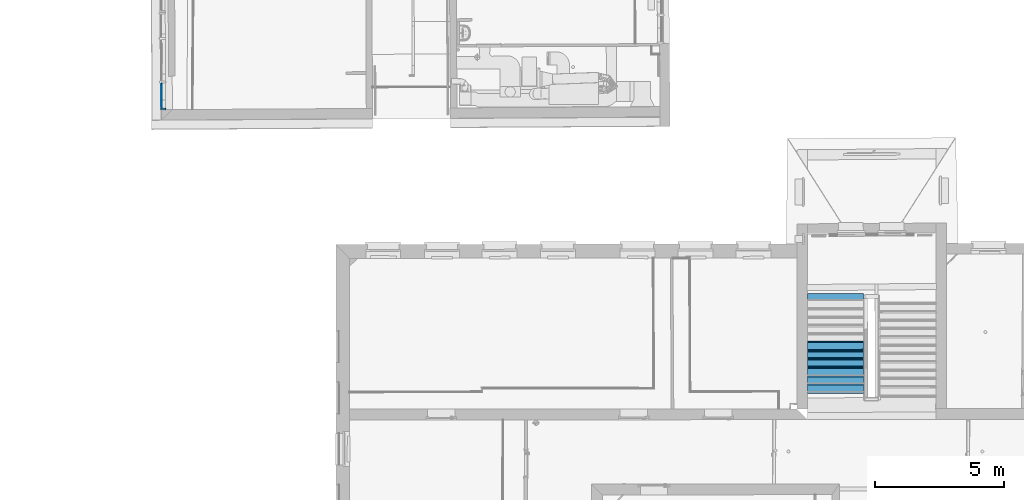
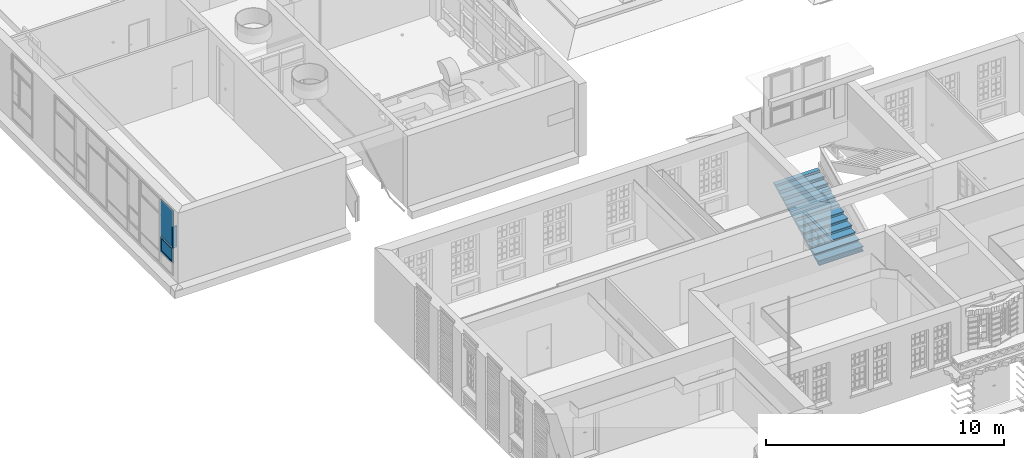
# One storey, part 90 of 158: 15 building element parts, 2 elements without a shape of their own.
"""IFC2X3 building model written with IfcOpenShell, lengths in metres."""

from ifc_helpers import new_model, entity, si_unit, converted_unit, derived_unit, money_unit, direction, frame, origin_with_axes, place, context, subcontext, project, spatial, faceted_brep, material, type_object, element, aggregate, save


model = new_model("IFC2X3")

# Units and contexts
model_context = context("Model", 3, precision=1e-05, world=origin_with_axes(), true_north=direction((0.0, 1.0)))
body_context = subcontext(model_context, "Body", "Model", "MODEL_VIEW")
ifc_project = project(units=[si_unit("LENGTHUNIT", "METRE"), si_unit("AREAUNIT", "SQUARE_METRE"), si_unit("VOLUMEUNIT", "CUBIC_METRE"), converted_unit("PLANEANGLEUNIT", "DEGREE", entity("IfcPlaneAngleMeasure", 0.0174532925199), si_unit("PLANEANGLEUNIT", "RADIAN"), dimensions=[0, 0, 0, 0, 0, 0, 0]), money_unit("EUR"), converted_unit("TIMEUNIT", "Year", entity("IfcTimeMeasure", 31556926.0), si_unit("TIMEUNIT", "SECOND"), dimensions=[0, 0, 1, 0, 0, 0, 0]), si_unit("MASSUNIT", "GRAM", prefix="KILO"), si_unit("THERMODYNAMICTEMPERATUREUNIT", "DEGREE_CELSIUS"), si_unit("LUMINOUSINTENSITYUNIT", "LUMEN"), si_unit("ENERGYUNIT", "JOULE", prefix="MEGA"), derived_unit("THERMALCONDUCTANCEUNIT", [(si_unit("POWERUNIT", "WATT"), 1), (si_unit("LENGTHUNIT", "METRE"), -1), (si_unit("THERMODYNAMICTEMPERATUREUNIT", "KELVIN"), -1)]), derived_unit("SPECIFICHEATCAPACITYUNIT", [(si_unit("ENERGYUNIT", "JOULE"), 1), (si_unit("MASSUNIT", "GRAM", prefix="KILO"), -1), (si_unit("THERMODYNAMICTEMPERATUREUNIT", "KELVIN"), -1)]), derived_unit("MASSDENSITYUNIT", [(si_unit("MASSUNIT", "GRAM", prefix="KILO"), 1), (si_unit("VOLUMEUNIT", "CUBIC_METRE"), -1)])], contexts=[model_context])

# Site, building, storey
site_placement = place(None, origin_with_axes())
site = spatial("IfcSite", under=ifc_project, at=site_placement, Name="Gelände", CompositionType="ELEMENT")
building_placement = place(site_placement, origin_with_axes())
building = spatial("IfcBuilding", under=site, at=building_placement, Name="Gebäude", CompositionType="ELEMENT")
storey_placement = place(building_placement, origin_with_axes())
storey = spatial("IfcBuildingStorey", under=building, at=storey_placement, Name="ERDGESCHOSS", CompositionType="ELEMENT", Elevation=0.0)

# Proxy, building element parts
building_element_proxy_type = type_object("IfcBuildingElementProxyType", Name="Fassadentyp", PredefinedType="NOTDEFINED")
proxy_placement = place(storey_placement, frame((-34.8120286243, 34.4012060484, 1.3404389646), z_axis=(0.0, 0.0, 1.0), x_axis=(1.0, 0.0, 0.0)))
proxy = element("IfcBuildingElementProxy", 1, at=proxy_placement, inside=storey, type_object=building_element_proxy_type, Name="Fassade-002")
ifc_material_1 = material(Name="45_Glas, Normalglas")
building_element_part_1_placement = place(proxy_placement, origin_with_axes())
building_element_part_1 = element("IfcBuildingElementPart", 2, at=building_element_part_1_placement, material=ifc_material_1, Name="45_Glas, Normalglas", context=body_context, shape_type="Brep", body=[
    faceted_brep([(0.0383259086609, -3.12465925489, 3.31499999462), (0.0363534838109, -2.78834462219, 3.31499999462), (-0.00364582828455, -2.78857921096, 3.31499999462), (-0.00167340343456, -3.12489384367, 3.31499999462), (0.0383259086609, -3.12465925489, 2.52000009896), (0.0383259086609, -3.12465925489, 1.43000009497), (0.0363534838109, -2.78834462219, 1.43000009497), (0.0323203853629, -2.10066822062, 1.43000009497), (0.0323203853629, -2.10066822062, 2.52000009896), (0.0323203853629, -2.10066822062, 3.31499999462), (-0.00767892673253, -2.1009028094, 3.31499999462), (-0.00767892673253, -2.1009028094, 2.52000009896), (-0.00767892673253, -2.1009028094, 1.43000009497), (-0.00364582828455, -2.78857921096, 1.43000009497), (-0.00167340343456, -3.12489384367, 1.43000009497), (-0.00167340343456, -3.12489384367, 2.52000009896)], [[[0, 1, 2, 3]], [[0, 4, 5, 6, 7, 8, 9, 1]], [[1, 9, 10, 2]], [[3, 2, 10, 11, 12, 13, 14, 15]], [[4, 0, 3, 15]], [[5, 4, 15, 14]], [[6, 5, 14, 13]], [[7, 6, 13, 12]], [[8, 7, 12, 11]], [[9, 8, 11, 10]]]),
])
ifc_material_2 = material(Name="53_Metall, Aluminium")
building_element_part_2_placement = place(proxy_placement, origin_with_axes())
building_element_part_2 = element("IfcBuildingElementPart", 3, at=building_element_part_2_placement, material=ifc_material_2, Name="53_Metall, Aluminium", context=body_context, shape_type="Brep", body=[
    faceted_brep([(-0.0175907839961, -2.11596119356, 0.645000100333), (-0.0117612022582, -3.10995274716, 0.645000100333), (-0.0167611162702, -3.10998207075, 0.645000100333), (-0.022590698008, -2.11599051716, 0.645000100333), (-0.017326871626, -2.16096041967, 0.690000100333), (-0.0120251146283, -3.06495352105, 0.690000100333), (-0.0170250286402, -3.06498284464, 0.690000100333), (-0.0223267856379, -2.16098974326, 0.690000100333)], [[[0, 1, 2, 3]], [[0, 4, 5, 1]], [[1, 5, 6, 2]], [[3, 2, 6, 7]], [[4, 0, 3, 7]], [[5, 4, 7, 6]]]),
    faceted_brep([(-0.0117612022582, -3.10995274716, 0.645000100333), (-0.0117612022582, -3.10995274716, 1.39500009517), (-0.0167611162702, -3.10998207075, 1.39500009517), (-0.0167611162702, -3.10998207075, 0.645000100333), (-0.0120251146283, -3.06495352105, 0.690000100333), (-0.0120251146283, -3.06495352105, 1.35000009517), (-0.0170250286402, -3.06498284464, 1.35000009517), (-0.0170250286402, -3.06498284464, 0.690000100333)], [[[0, 1, 2, 3]], [[0, 4, 5, 1]], [[1, 5, 6, 2]], [[3, 2, 6, 7]], [[4, 0, 3, 7]], [[5, 4, 7, 6]]]),
    faceted_brep([(-0.0175907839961, -2.11596119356, 1.39500009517), (-0.017326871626, -2.16096041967, 1.35000009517), (-0.0223267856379, -2.16098974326, 1.35000009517), (-0.022590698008, -2.11599051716, 1.39500009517), (-0.0117612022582, -3.10995274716, 1.39500009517), (-0.0120251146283, -3.06495352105, 1.35000009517), (-0.0170250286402, -3.06498284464, 1.35000009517), (-0.0167611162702, -3.10998207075, 1.39500009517)], [[[0, 1, 2, 3]], [[0, 4, 5, 1]], [[1, 5, 6, 2]], [[3, 2, 6, 7]], [[4, 0, 3, 7]], [[5, 4, 7, 6]]]),
    faceted_brep([(-0.0175907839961, -2.11596119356, 0.645000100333), (-0.017326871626, -2.16096041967, 0.690000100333), (-0.0223267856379, -2.16098974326, 0.690000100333), (-0.022590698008, -2.11599051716, 0.645000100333), (-0.0175907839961, -2.11596119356, 1.39500009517), (-0.017326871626, -2.16096041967, 1.35000009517), (-0.0223267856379, -2.16098974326, 1.35000009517), (-0.022590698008, -2.11599051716, 1.39500009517)], [[[0, 1, 2, 3]], [[0, 4, 5, 1]], [[1, 5, 6, 2]], [[3, 2, 6, 7]], [[4, 0, 3, 7]], [[5, 4, 7, 6]]]),
    faceted_brep([(0.0324083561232, -2.11566795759, 0.645000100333), (0.0382379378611, -3.10965951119, 0.645000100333), (-0.0117612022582, -3.10995274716, 0.645000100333), (-0.0175907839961, -2.11596119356, 0.645000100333), (0.0325256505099, -2.13566761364, 0.665000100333), (0.0381206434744, -3.08965985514, 0.665000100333), (-0.0118784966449, -3.08995309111, 0.665000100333), (-0.0174734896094, -2.13596084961, 0.665000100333)], [[[0, 1, 2, 3]], [[0, 4, 5, 1]], [[1, 5, 6, 2]], [[3, 2, 6, 7]], [[4, 0, 3, 7]], [[5, 4, 7, 6]]]),
    faceted_brep([(0.0382379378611, -3.10965951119, 0.645000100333), (0.0382379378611, -3.10965951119, 1.39500009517), (-0.0117612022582, -3.10995274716, 1.39500009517), (-0.0117612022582, -3.10995274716, 0.645000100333), (0.0381206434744, -3.08965985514, 0.665000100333), (0.0381206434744, -3.08965985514, 1.37500009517), (-0.0118784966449, -3.08995309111, 1.37500009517), (-0.0118784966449, -3.08995309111, 0.665000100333)], [[[0, 1, 2, 3]], [[0, 4, 5, 1]], [[1, 5, 6, 2]], [[3, 2, 6, 7]], [[4, 0, 3, 7]], [[5, 4, 7, 6]]]),
    faceted_brep([(0.0324083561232, -2.11566795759, 1.39500009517), (0.0325256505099, -2.13566761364, 1.37500009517), (-0.0174734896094, -2.13596084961, 1.37500009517), (-0.0175907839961, -2.11596119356, 1.39500009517), (0.0382379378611, -3.10965951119, 1.39500009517), (0.0381206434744, -3.08965985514, 1.37500009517), (-0.0118784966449, -3.08995309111, 1.37500009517), (-0.0117612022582, -3.10995274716, 1.39500009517)], [[[0, 1, 2, 3]], [[0, 4, 5, 1]], [[1, 5, 6, 2]], [[3, 2, 6, 7]], [[4, 0, 3, 7]], [[5, 4, 7, 6]]]),
    faceted_brep([(0.0324083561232, -2.11566795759, 0.645000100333), (0.0325256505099, -2.13566761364, 0.665000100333), (-0.0174734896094, -2.13596084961, 0.665000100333), (-0.0175907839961, -2.11596119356, 0.645000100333), (0.0324083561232, -2.11566795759, 1.39500009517), (0.0325256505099, -2.13566761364, 1.37500009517), (-0.0174734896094, -2.13596084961, 1.37500009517), (-0.0175907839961, -2.11596119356, 1.39500009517)], [[[0, 1, 2, 3]], [[0, 4, 5, 1]], [[1, 5, 6, 2]], [[3, 2, 6, 7]], [[4, 0, 3, 7]], [[5, 4, 7, 6]]]),
    faceted_brep([(0.0323203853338, -2.10066821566, 0.630000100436), (0.0383259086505, -3.12465925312, 0.630000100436), (-0.00167340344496, -3.12489384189, 0.630000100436), (-0.00767892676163, -2.10090280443, 0.630000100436), (0.0324083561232, -2.11566795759, 0.645000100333), (0.0382379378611, -3.10965951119, 0.645000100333), (-0.00176137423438, -3.10989409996, 0.645000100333), (-0.00759095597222, -2.11590254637, 0.645000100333)], [[[0, 1, 2, 3]], [[0, 4, 5, 1]], [[1, 5, 6, 2]], [[3, 2, 6, 7]], [[4, 0, 3, 7]], [[5, 4, 7, 6]]]),
    faceted_brep([(0.0383259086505, -3.12465925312, 0.630000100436), (0.0383259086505, -3.12465925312, 1.41000009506), (-0.00167340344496, -3.12489384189, 1.41000009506), (-0.00167340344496, -3.12489384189, 0.630000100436), (0.0382379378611, -3.10965951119, 0.645000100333), (0.0382379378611, -3.10965951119, 1.39500009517), (-0.00176137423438, -3.10989409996, 1.39500009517), (-0.00176137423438, -3.10989409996, 0.645000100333)], [[[0, 1, 2, 3]], [[0, 4, 5, 1]], [[1, 5, 6, 2]], [[3, 2, 6, 7]], [[4, 0, 3, 7]], [[5, 4, 7, 6]]]),
    faceted_brep([(0.0383259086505, -3.12465925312, 1.41000009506), (0.0323203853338, -2.10066821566, 1.41000009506), (-0.00767892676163, -2.10090280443, 1.41000009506), (-0.00167340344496, -3.12489384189, 1.41000009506), (0.0382379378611, -3.10965951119, 1.39500009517), (0.0324083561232, -2.11566795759, 1.39500009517), (-0.00759095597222, -2.11590254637, 1.39500009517), (-0.00176137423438, -3.10989409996, 1.39500009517)], [[[0, 1, 2, 3]], [[0, 4, 5, 1]], [[1, 5, 6, 2]], [[3, 2, 6, 7]], [[4, 0, 3, 7]], [[5, 4, 7, 6]]]),
    faceted_brep([(0.0323203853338, -2.10066821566, 1.41000009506), (0.0323203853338, -2.10066821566, 0.630000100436), (-0.00767892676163, -2.10090280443, 0.630000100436), (-0.00767892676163, -2.10090280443, 1.41000009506), (0.0324083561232, -2.11566795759, 1.39500009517), (0.0324083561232, -2.11566795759, 0.645000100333), (-0.00759095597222, -2.11590254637, 0.645000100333), (-0.00759095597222, -2.11590254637, 1.39500009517)], [[[0, 1, 2, 3]], [[0, 4, 5, 1]], [[1, 5, 6, 2]], [[3, 2, 6, 7]], [[4, 0, 3, 7]], [[5, 4, 7, 6]]]),
    faceted_brep([(-0.0172095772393, -2.18096007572, 0.710000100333), (0.0377894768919, -2.18063751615, 0.710000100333), (0.0377894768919, -2.18063751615, 1.33000009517), (-0.0172095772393, -2.18096007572, 1.33000009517), (-0.0174734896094, -2.13596084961, 0.665000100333), (0.0375255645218, -2.13563829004, 0.665000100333), (0.0375255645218, -2.13563829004, 1.37500009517), (-0.0174734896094, -2.13596084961, 1.37500009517)], [[[0, 1, 2, 3]], [[4, 5, 1, 0]], [[1, 5, 6, 2]], [[3, 2, 6, 7]], [[0, 3, 7, 4]], [[7, 6, 5, 4]]]),
    faceted_brep([(-0.0118784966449, -3.08995309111, 0.665000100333), (0.0431205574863, -3.08963053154, 0.665000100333), (0.0431205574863, -3.08963053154, 1.37500009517), (-0.0118784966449, -3.08995309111, 1.37500009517), (-0.012142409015, -3.044953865, 0.710000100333), (0.0428566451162, -3.04463130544, 0.710000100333), (0.0428566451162, -3.04463130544, 1.33000009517), (-0.012142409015, -3.044953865, 1.33000009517)], [[[0, 1, 2, 3]], [[4, 5, 1, 0]], [[1, 5, 6, 2]], [[3, 2, 6, 7]], [[0, 3, 7, 4]], [[7, 6, 5, 4]]]),
    faceted_brep([(-0.0118784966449, -3.08995309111, 0.665000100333), (0.0431205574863, -3.08963053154, 0.665000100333), (0.0428566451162, -3.04463130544, 0.710000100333), (-0.012142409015, -3.044953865, 0.710000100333), (-0.0174734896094, -2.13596084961, 0.665000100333), (0.0375255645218, -2.13563829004, 0.665000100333), (0.0377894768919, -2.18063751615, 0.710000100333), (-0.0172095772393, -2.18096007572, 0.710000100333)], [[[0, 1, 2, 3]], [[4, 5, 1, 0]], [[1, 5, 6, 2]], [[3, 2, 6, 7]], [[0, 3, 7, 4]], [[7, 6, 5, 4]]]),
    faceted_brep([(-0.0174734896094, -2.13596084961, 1.37500009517), (0.0375255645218, -2.13563829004, 1.37500009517), (0.0377894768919, -2.18063751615, 1.33000009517), (-0.0172095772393, -2.18096007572, 1.33000009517), (-0.0118784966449, -3.08995309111, 1.37500009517), (0.0431205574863, -3.08963053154, 1.37500009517), (0.0428566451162, -3.04463130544, 1.33000009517), (-0.012142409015, -3.044953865, 1.33000009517)], [[[0, 1, 2, 3]], [[4, 5, 1, 0]], [[1, 5, 6, 2]], [[3, 2, 6, 7]], [[0, 3, 7, 4]], [[7, 6, 5, 4]]]),
])
building_element_part_3_placement = place(proxy_placement, origin_with_axes())
building_element_part_3 = element("IfcBuildingElementPart", 4, at=building_element_part_3_placement, material=ifc_material_1, Name="45_Glas, Normalglas", context=body_context, shape_type="Brep", body=[
    faceted_brep([(-0.00720974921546, -2.18090142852, 0.710000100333), (0.00878997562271, -2.18080759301, 0.710000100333), (0.013857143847, -3.0448013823, 0.710000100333), (-0.00214258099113, -3.04489521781, 0.710000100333), (-0.00720974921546, -2.18090142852, 1.33000009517), (0.00878997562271, -2.18080759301, 1.33000009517), (0.013857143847, -3.0448013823, 1.33000009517), (-0.00214258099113, -3.04489521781, 1.33000009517)], [[[0, 1, 2, 3]], [[4, 5, 1, 0]], [[1, 5, 6, 2]], [[3, 2, 6, 7]], [[0, 3, 7, 4]], [[7, 6, 5, 4]]]),
])
building_element_part_4_placement = place(proxy_placement, origin_with_axes())
building_element_part_4 = element("IfcBuildingElementPart", 5, at=building_element_part_4_placement, material=ifc_material_2, Name="53_Metall, Aluminium", context=body_context, shape_type="Brep", body=[
    faceted_brep([(0.0283260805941, -3.12471789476, 2.5200000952), (0.00832642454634, -3.12483518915, 2.5200000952), (0.00823845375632, -3.10983544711, 2.5200000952), (-0.0317608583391, -3.11007003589, 2.5200000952), (-0.0314676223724, -3.16006917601, 2.5200000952), (0.168528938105, -3.15889623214, 2.5200000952), (0.168235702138, -3.10889709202, 2.5200000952), (0.028238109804, -3.10971815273, 2.5200000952), (0.0283260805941, -3.12471789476, 1.4200000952), (0.00832642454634, -3.12483518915, 1.4200000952), (0.00823845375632, -3.10983544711, 1.4200000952), (-0.0317608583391, -3.11007003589, 1.4200000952), (-0.0314676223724, -3.16006917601, 1.4200000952), (0.168528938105, -3.15889623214, 1.4200000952), (0.168235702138, -3.10889709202, 1.4200000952), (0.028238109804, -3.10971815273, 1.4200000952)], [[[0, 1, 2, 3, 4, 5, 6, 7]], [[1, 0, 8, 9]], [[10, 2, 1, 9]], [[2, 10, 11, 3]], [[12, 4, 3, 11]], [[13, 5, 4, 12]], [[14, 6, 5, 13]], [[15, 7, 6, 14]], [[0, 7, 15, 8]], [[8, 15, 14, 13, 12, 11, 10, 9]]]),
])
aggregate(proxy, [building_element_part_1, building_element_part_2, building_element_part_3, building_element_part_4])

# Stair, building element parts
stair_placement = place(storey_placement, frame((-9.84157552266, 20.2697661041, -0.136081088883), z_axis=(0.0, 0.0, 1.0), x_axis=(0.999999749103, -0.000708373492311, 0.0)))
stair = element("IfcStair", 6, at=stair_placement, inside=storey, Name="Treppe-003", ShapeType="NOTDEFINED")
ifc_material_3 = material(Name="05_ALLGEMEIN - TRAGENDE BAUTEILE")
building_element_part_5_placement = place(stair_placement, origin_with_axes())
building_element_part_5 = element("IfcBuildingElementPart", 7, at=building_element_part_5_placement, material=ifc_material_3, Name="05_ALLGEMEIN - TRAGENDE BAUTEILE", context=body_context, shape_type="Brep", body=[
    faceted_brep([(2.15704420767, 3.68406314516, 1.84608124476), (2.15704420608, 3.68406314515, 1.75444817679), (2.15689790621, 3.86636755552, 1.84608124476), (2.1569431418, 3.81000076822, 1.84608124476), (2.15328184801, 3.68404377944, 1.84608124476), (2.15328184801, 3.68404377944, 1.7544398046), (2.15361549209, 3.47016184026, 1.64693477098), (-0.00278344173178, 3.4684313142, 1.64693477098), (-0.00284817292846, 3.54909250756, 1.687478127), (-0.00310139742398, 3.86463414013, 1.84608108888), (-0.00292039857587, 3.63909247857, 1.84608108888), (2.15334927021, 3.6408229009, 1.84608114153), (2.15888565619, 0.0917325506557, -0.04), (2.15902605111, 0.00173263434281, -0.04), (2.15902605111, 0.00173263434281, -0.0964295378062), (2.15890022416, 0.0823937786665, -0.0558861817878), (2.1587743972, 0.16305492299, -0.0153428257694), (2.15864857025, 0.243716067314, 0.0252005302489), (2.1585227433, 0.324377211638, 0.0657438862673), (2.15839691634, 0.405038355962, 0.106287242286), (2.15827108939, 0.485699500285, 0.146830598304), (2.15814526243, 0.566360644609, 0.187373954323), (2.15801943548, 0.647021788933, 0.227917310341), (2.15789360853, 0.727682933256, 0.268460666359), (2.15776778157, 0.80834407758, 0.309004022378), (2.15764195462, 0.889005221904, 0.349547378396), (2.15751612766, 0.969666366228, 0.390090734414), (2.15739030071, 1.05032751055, 0.430634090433), (2.15726447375, 1.13098865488, 0.471177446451), (2.1571386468, 1.2116497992, 0.51172080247), (2.15701281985, 1.29231094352, 0.552264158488), (2.15688699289, 1.37297208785, 0.592807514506), (2.15676116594, 1.45363323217, 0.633350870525), (2.15663533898, 1.53429437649, 0.673894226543), (2.15650951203, 1.61495552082, 0.714437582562), (2.15638368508, 1.69561666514, 0.75498093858), (2.15625785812, 1.77627780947, 0.795524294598), (2.15613203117, 1.85693895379, 0.836067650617), (2.15600620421, 1.93760009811, 0.876611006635), (2.15588037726, 2.01826124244, 0.917154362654), (2.15575455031, 2.09892238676, 0.957697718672), (2.15562872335, 2.17958353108, 0.99824107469), (2.1555028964, 2.26024467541, 1.03878443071), (2.15537706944, 2.34090581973, 1.07932778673), (2.15525124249, 2.42156696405, 1.11987114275), (2.15512541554, 2.50222810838, 1.16041449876), (2.15499958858, 2.5828892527, 1.20095785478), (2.15487376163, 2.66355039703, 1.2415012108), (2.15474793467, 2.74421154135, 1.28204456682), (2.15462210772, 2.82487268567, 1.32258792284), (2.15449628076, 2.90553383, 1.36313127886), (2.15437045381, 2.98619497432, 1.40367463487), (2.15424462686, 3.06685611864, 1.44421799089), (2.1541187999, 3.14751726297, 1.48476134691), (2.15399297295, 3.22817840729, 1.52530470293), (2.15386714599, 3.30883955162, 1.56584805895), (2.15374131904, 3.38950069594, 1.60639141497), (2.15334927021, 3.6408229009, 1.74390766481), (2.15385257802, 3.31817832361, 1.74390766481), (2.15385257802, 3.31817832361, 1.58173424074), (2.15435588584, 2.99553374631, 1.58173424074), (2.15435588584, 2.99553374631, 1.41956081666), (2.15485919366, 2.67288916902, 1.41956081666), (2.15485919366, 2.67288916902, 1.25738739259), (2.15536250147, 2.35024459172, 1.25738739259), (2.15536250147, 2.35024459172, 1.09521396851), (2.15586580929, 2.02760001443, 1.09521396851), (2.15586580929, 2.02760001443, 0.933040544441), (2.1563691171, 1.70495543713, 0.933040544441), (2.1563691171, 1.70495543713, 0.770867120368), (2.15687242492, 1.38231085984, 0.770867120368), (2.15687242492, 1.38231085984, 0.608693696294), (2.15737573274, 1.05966628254, 0.608693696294), (2.15737573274, 1.05966628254, 0.446520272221), (2.15787904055, 0.737021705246, 0.446520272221), (2.15787904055, 0.737021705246, 0.284346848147), (2.15838234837, 0.414377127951, 0.284346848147), (2.15838234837, 0.414377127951, 0.122173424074), (2.15888565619, 0.0917325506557, 0.122173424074), (-0.00271871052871, 3.38777012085, 1.60639141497), (-0.00292039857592, 3.63909247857, 1.74390766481), (-0.00265397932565, 3.30710892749, 1.56584805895), (-0.00258924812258, 3.22644773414, 1.52530470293), (-0.00252451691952, 3.14578654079, 1.48476134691), (-0.00245978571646, 3.06512534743, 1.44421799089), (-0.00239505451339, 2.98446415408, 1.40367463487), (-0.00233032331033, 2.90380296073, 1.36313127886), (-0.00226559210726, 2.82314176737, 1.32258792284), (-0.0022008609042, 2.74248057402, 1.28204456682), (-0.00213612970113, 2.66181938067, 1.2415012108), (-0.00207139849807, 2.58115818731, 1.20095785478), (-0.002006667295, 2.50049699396, 1.16041449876), (-0.00194193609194, 2.41983580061, 1.11987114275), (-0.00187720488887, 2.33917460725, 1.07932778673), (-0.00181247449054, 2.2585134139, 1.03878443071), (-0.00174774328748, 2.17785222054, 0.99824107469), (-0.00168301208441, 2.09719102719, 0.957697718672), (-0.00161828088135, 2.01652983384, 0.917154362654), (-0.00155355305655, 1.93586864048, 0.876611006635), (-0.00148882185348, 1.85520744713, 0.836067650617), (-0.00142409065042, 1.77454625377, 0.795524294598), (-0.00135935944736, 1.69388506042, 0.75498093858), (-0.00129462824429, 1.61322386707, 0.714437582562), (-0.00122989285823, 1.53256267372, 0.673894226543), (-0.00116516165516, 1.45190148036, 0.633350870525), (-0.0011004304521, 1.37124028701, 0.592807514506), (-0.00103569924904, 1.29057909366, 0.552264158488), (-0.000970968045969, 1.2099179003, 0.51172080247), (-0.000906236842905, 1.12925670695, 0.471177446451), (-0.000841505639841, 1.0485955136, 0.430634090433), (-0.000776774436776, 0.967934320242, 0.390090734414), (-0.00071204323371, 0.887273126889, 0.349547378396), (-0.000647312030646, 0.806611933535, 0.309004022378), (-0.000582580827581, 0.725950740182, 0.268460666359), (-0.000517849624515, 0.645289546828, 0.227917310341), (-0.000453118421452, 0.564628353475, 0.187373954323), (-0.000388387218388, 0.483967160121, 0.146830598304), (-0.000323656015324, 0.403305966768, 0.106287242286), (-0.000258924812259, 0.322644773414, 0.0657438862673), (-0.000194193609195, 0.241983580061, 0.0252005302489), (-0.000129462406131, 0.161322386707, -0.0153428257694), (-6.47312030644e-05, 0.0806611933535, -0.0558861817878), (0.0, 0.0, -0.0964295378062), (0.0, 0.0, -0.04), (-7.22216685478e-05, 0.0899999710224, -0.04), (-7.22216685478e-05, 0.0899999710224, 0.122173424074), (-0.00033114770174, 0.412644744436, 0.122173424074), (-0.00033114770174, 0.412644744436, 0.284346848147), (-0.00059007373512, 0.735289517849, 0.284346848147), (-0.00059007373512, 0.735289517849, 0.446520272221), (-0.000848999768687, 1.05793429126, 0.446520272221), (-0.000848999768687, 1.05793429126, 0.608693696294), (-0.00110792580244, 1.38057906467, 0.608693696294), (-0.00110792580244, 1.38057906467, 0.770867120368), (-0.00136684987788, 1.70322383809, 0.770867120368), (-0.00136684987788, 1.70322383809, 0.933040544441), (-0.0016257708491, 2.02586861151, 0.933040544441), (-0.0016257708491, 2.02586861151, 1.09521396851), (-0.00188469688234, 2.34851338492, 1.09521396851), (-0.00188469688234, 2.34851338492, 1.25738739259), (-0.00214362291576, 2.67115815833, 1.25738739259), (-0.00214362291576, 2.67115815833, 1.41956081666), (-0.00240254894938, 2.99380293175, 1.41956081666), (-0.00240254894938, 2.99380293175, 1.58173424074), (-0.00266147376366, 3.31644770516, 1.58173424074), (-0.00266147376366, 3.31644770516, 1.74390766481), (-0.00284817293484, 3.54909250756, 1.74390766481)], [[[0, 1, 2, 3]], [[1, 0, 4, 5]], [[5, 6, 7, 8, 9, 2, 1]], [[3, 2, 9, 10, 11, 4, 0]], [[12, 13, 14, 15, 16, 17, 18, 19, 20, 21, 22, 23, 24, 25, 26, 27, 28, 29, 30, 31, 32, 33, 34, 35, 36, 37, 38, 39, 40, 41, 42, 43, 44, 45, 46, 47, 48, 49, 50, 51, 52, 53, 54, 55, 56, 6, 5, 4, 11, 57, 58, 59, 60, 61, 62, 63, 64, 65, 66, 67, 68, 69, 70, 71, 72, 73, 74, 75, 76, 77, 78]], [[6, 56, 79, 7]], [[80, 10, 9, 8, 7, 79, 81, 82, 83, 84, 85, 86, 87, 88, 89, 90, 91, 92, 93, 94, 95, 96, 97, 98, 99, 100, 101, 102, 103, 104, 105, 106, 107, 108, 109, 110, 111, 112, 113, 114, 115, 116, 117, 118, 119, 120, 121, 122, 123, 124, 125, 126, 127, 128, 129, 130, 131, 132, 133, 134, 135, 136, 137, 138, 139, 140, 141, 142, 143, 144, 145, 146]], [[57, 11, 10, 80]], [[13, 12, 124, 123]], [[14, 13, 123, 122]], [[15, 14, 122, 121]], [[16, 15, 121, 120]], [[17, 16, 120, 119]], [[18, 17, 119, 118]], [[19, 18, 118, 117]], [[20, 19, 117, 116]], [[21, 20, 116, 115]], [[22, 21, 115, 114]], [[23, 22, 114, 113]], [[24, 23, 113, 112]], [[25, 24, 112, 111]], [[26, 25, 111, 110]], [[27, 26, 110, 109]], [[28, 27, 109, 108]], [[29, 28, 108, 107]], [[30, 29, 107, 106]], [[31, 30, 106, 105]], [[32, 31, 105, 104]], [[33, 32, 104, 103]], [[34, 33, 103, 102]], [[35, 34, 102, 101]], [[36, 35, 101, 100]], [[37, 36, 100, 99]], [[38, 37, 99, 98]], [[39, 38, 98, 97]], [[40, 39, 97, 96]], [[41, 40, 96, 95]], [[42, 41, 95, 94]], [[43, 42, 94, 93]], [[44, 43, 93, 92]], [[45, 44, 92, 91]], [[46, 45, 91, 90]], [[47, 46, 90, 89]], [[48, 47, 89, 88]], [[49, 48, 88, 87]], [[50, 49, 87, 86]], [[51, 50, 86, 85]], [[52, 51, 85, 84]], [[53, 52, 84, 83]], [[54, 53, 83, 82]], [[55, 54, 82, 81]], [[56, 55, 81, 79]], [[58, 57, 80, 146, 145]], [[59, 58, 145, 144]], [[60, 59, 144, 143]], [[61, 60, 143, 142]], [[62, 61, 142, 141]], [[63, 62, 141, 140]], [[64, 63, 140, 139]], [[65, 64, 139, 138]], [[66, 65, 138, 137]], [[67, 66, 137, 136]], [[68, 67, 136, 135]], [[69, 68, 135, 134]], [[70, 69, 134, 133]], [[71, 70, 133, 132]], [[72, 71, 132, 131]], [[73, 72, 131, 130]], [[74, 73, 130, 129]], [[75, 74, 129, 128]], [[76, 75, 128, 127]], [[77, 76, 127, 126]], [[78, 77, 126, 125]], [[12, 78, 125, 124]]]),
])
building_element_part_6_placement = place(stair_placement, origin_with_axes())
building_element_part_6 = element("IfcBuildingElementPart", 8, at=building_element_part_6_placement, material=ifc_material_3, Name="05_ALLGEMEIN - TRAGENDE BAUTEILE", context=body_context, shape_type="Brep", body=[
    faceted_brep([(2.15743813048, 1.01966631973, 0.486520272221), (2.15743813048, 1.01966631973, 0.608693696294), (-0.00081689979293, 1.01793430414, 0.608693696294), (-0.00081689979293, 1.01793430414, 0.486520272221), (2.15737573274, 1.05966628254, 0.608693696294), (2.15737573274, 1.05966628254, 0.486520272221), (-0.000849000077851, 1.05793429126, 0.608693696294), (-0.000849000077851, 1.05793429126, 0.486520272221)], [[[0, 1, 2, 3]], [[4, 1, 0, 5]], [[1, 4, 6, 2]], [[3, 2, 6, 7]], [[5, 0, 3, 7]], [[4, 5, 7, 6]]]),
])
building_element_part_7_placement = place(stair_placement, origin_with_axes())
building_element_part_7 = element("IfcBuildingElementPart", 9, at=building_element_part_7_placement, material=ifc_material_3, Name="05_ALLGEMEIN - TRAGENDE BAUTEILE", context=body_context, shape_type="Brep", body=[
    faceted_brep([(2.15693482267, 1.34231089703, 0.648693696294), (2.15693482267, 1.34231089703, 0.770867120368), (-0.00107582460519, 1.34057907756, 0.770867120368), (-0.00107582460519, 1.34057907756, 0.648693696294), (2.15687242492, 1.38231085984, 0.770867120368), (2.15687242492, 1.38231085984, 0.648693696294), (-0.00110792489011, 1.38057906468, 0.770867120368), (-0.00110792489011, 1.38057906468, 0.648693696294)], [[[0, 1, 2, 3]], [[4, 1, 0, 5]], [[1, 4, 6, 2]], [[3, 2, 6, 7]], [[5, 0, 3, 7]], [[4, 5, 7, 6]]]),
])
building_element_part_8_placement = place(stair_placement, origin_with_axes())
building_element_part_8 = element("IfcBuildingElementPart", 10, at=building_element_part_8_placement, material=ifc_material_3, Name="05_ALLGEMEIN - TRAGENDE BAUTEILE", context=body_context, shape_type="Brep", body=[
    faceted_brep([(2.15643151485, 1.66495547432, 0.810867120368), (2.15643151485, 1.66495547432, 0.933040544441), (-0.00133474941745, 1.66322385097, 0.933040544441), (-0.00133474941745, 1.66322385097, 0.810867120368), (2.1563691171, 1.70495543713, 0.933040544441), (2.1563691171, 1.70495543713, 0.810867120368), (-0.00136684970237, 1.70322383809, 0.933040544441), (-0.00136684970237, 1.70322383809, 0.810867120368)], [[[0, 1, 2, 3]], [[4, 1, 0, 5]], [[1, 4, 6, 2]], [[3, 2, 6, 7]], [[5, 0, 3, 7]], [[4, 5, 7, 6]]]),
])
building_element_part_9_placement = place(stair_placement, origin_with_axes())
building_element_part_9 = element("IfcBuildingElementPart", 11, at=building_element_part_9_placement, material=ifc_material_3, Name="05_ALLGEMEIN - TRAGENDE BAUTEILE", context=body_context, shape_type="Brep", body=[
    faceted_brep([(2.15592820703, 1.98760005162, 0.973040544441), (2.15592820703, 1.98760005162, 1.09521396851), (-0.0015936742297, 1.98586862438, 1.09521396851), (-0.0015936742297, 1.98586862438, 0.973040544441), (2.15586580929, 2.02760001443, 1.09521396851), (2.15586580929, 2.02760001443, 0.973040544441), (-0.00162577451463, 2.0258686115, 1.09521396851), (-0.00162577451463, 2.0258686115, 0.973040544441)], [[[0, 1, 2, 3]], [[4, 1, 0, 5]], [[1, 4, 6, 2]], [[3, 2, 6, 7]], [[5, 0, 3, 7]], [[4, 5, 7, 6]]]),
])
building_element_part_10_placement = place(stair_placement, origin_with_axes())
building_element_part_10 = element("IfcBuildingElementPart", 12, at=building_element_part_10_placement, material=ifc_material_3, Name="05_ALLGEMEIN - TRAGENDE BAUTEILE", context=body_context, shape_type="Brep", body=[
    faceted_brep([(2.15902605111, 0.00173263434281, 0.122173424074), (2.15902605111, 0.00173263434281, 0.162173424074), (0.0, 0.0, 0.162173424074), (0.0, 0.0, 0.122173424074), (2.15838234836, 0.414377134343, 0.162173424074), (2.15838234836, 0.414377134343, 0.122173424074), (-0.000331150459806, 0.412644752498, 0.162173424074), (-0.000331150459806, 0.412644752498, 0.122173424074)], [[[0, 1, 2, 3]], [[4, 1, 0, 5]], [[1, 4, 6, 2]], [[6, 7, 3, 2]], [[5, 0, 3, 7]], [[4, 5, 7, 6]]]),
])
building_element_part_11_placement = place(stair_placement, origin_with_axes())
building_element_part_11 = element("IfcBuildingElementPart", 13, at=building_element_part_11_placement, material=ifc_material_3, Name="05_ALLGEMEIN - TRAGENDE BAUTEILE", context=body_context, shape_type="Brep", body=[
    faceted_brep([(2.1585227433, 0.324377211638, 0.284346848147), (2.1585227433, 0.324377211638, 0.324346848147), (-0.000258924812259, 0.322644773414, 0.324346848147), (-0.000258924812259, 0.322644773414, 0.284346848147), (2.15787904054, 0.737021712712, 0.324346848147), (2.15787904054, 0.737021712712, 0.284346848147), (-0.000590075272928, 0.735289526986, 0.324346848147), (-0.000590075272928, 0.735289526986, 0.284346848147)], [[[0, 1, 2, 3]], [[4, 1, 0, 5]], [[1, 4, 6, 2]], [[6, 7, 3, 2]], [[5, 0, 3, 7]], [[4, 5, 7, 6]]]),
])
building_element_part_12_placement = place(stair_placement, origin_with_axes())
building_element_part_12 = element("IfcBuildingElementPart", 14, at=building_element_part_12_placement, material=ifc_material_3, Name="05_ALLGEMEIN - TRAGENDE BAUTEILE", context=body_context, shape_type="Brep", body=[
    faceted_brep([(2.15801943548, 0.647021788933, 0.446520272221), (2.15801943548, 0.647021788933, 0.486520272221), (-0.000517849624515, 0.645289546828, 0.486520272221), (-0.000517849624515, 0.645289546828, 0.446520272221), (2.15737573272, 1.05966629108, 0.486520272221), (2.15737573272, 1.05966629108, 0.446520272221), (-0.000849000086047, 1.05793430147, 0.486520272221), (-0.000849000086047, 1.05793430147, 0.446520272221)], [[[0, 1, 2, 3]], [[4, 1, 0, 5]], [[1, 4, 6, 2]], [[6, 7, 3, 2]], [[5, 0, 3, 7]], [[4, 5, 7, 6]]]),
])
building_element_part_13_placement = place(stair_placement, origin_with_axes())
building_element_part_13 = element("IfcBuildingElementPart", 15, at=building_element_part_13_placement, material=ifc_material_3, Name="05_ALLGEMEIN - TRAGENDE BAUTEILE", context=body_context, shape_type="Brep", body=[
    faceted_brep([(2.15751612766, 0.969666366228, 0.608693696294), (2.15751612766, 0.969666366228, 0.648693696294), (-0.000776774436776, 0.967934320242, 0.648693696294), (-0.000776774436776, 0.967934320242, 0.608693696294), (2.15687242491, 1.38231086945, 0.648693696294), (2.15687242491, 1.38231086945, 0.608693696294), (-0.00110792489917, 1.38057907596, 0.648693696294), (-0.00110792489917, 1.38057907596, 0.608693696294)], [[[0, 1, 2, 3]], [[4, 1, 0, 5]], [[1, 4, 6, 2]], [[6, 7, 3, 2]], [[5, 0, 3, 7]], [[4, 5, 7, 6]]]),
])
building_element_part_14_placement = place(stair_placement, origin_with_axes())
building_element_part_14 = element("IfcBuildingElementPart", 16, at=building_element_part_14_placement, material=ifc_material_3, Name="05_ALLGEMEIN - TRAGENDE BAUTEILE", context=body_context, shape_type="Brep", body=[
    faceted_brep([(2.15701281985, 1.29231094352, 0.770867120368), (2.15701281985, 1.29231094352, 0.810867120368), (-0.00103569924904, 1.29057909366, 0.810867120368), (-0.00103569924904, 1.29057909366, 0.770867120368), (2.15636911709, 1.70495544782, 0.810867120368), (2.15636911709, 1.70495544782, 0.770867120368), (-0.00136684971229, 1.70322385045, 0.810867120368), (-0.00136684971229, 1.70322385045, 0.770867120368)], [[[0, 1, 2, 3]], [[4, 1, 0, 5]], [[1, 4, 6, 2]], [[6, 7, 3, 2]], [[5, 0, 3, 7]], [[4, 5, 7, 6]]]),
])
building_element_part_15_placement = place(stair_placement, origin_with_axes())
building_element_part_15 = element("IfcBuildingElementPart", 17, at=building_element_part_15_placement, material=ifc_material_3, Name="05_ALLGEMEIN - TRAGENDE BAUTEILE", context=body_context, shape_type="Brep", body=[
    faceted_brep([(2.15650951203, 1.61495552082, 0.933040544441), (2.15650951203, 1.61495552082, 0.973040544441), (-0.00129462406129, 1.61322386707, 0.973040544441), (-0.00129462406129, 1.61322386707, 0.933040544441), (2.15586580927, 2.02760002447, 0.973040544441), (2.15586580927, 2.02760002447, 0.933040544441), (-0.00162577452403, 2.02586862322, 0.973040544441), (-0.00162577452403, 2.02586862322, 0.933040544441)], [[[0, 1, 2, 3]], [[4, 1, 0, 5]], [[1, 4, 6, 2]], [[6, 7, 3, 2]], [[5, 0, 3, 7]], [[4, 5, 7, 6]]]),
])
aggregate(stair, [building_element_part_5, building_element_part_6, building_element_part_7, building_element_part_8, building_element_part_9, building_element_part_10, building_element_part_11, building_element_part_12, building_element_part_13, building_element_part_14, building_element_part_15])

save(model, "model.ifc")
